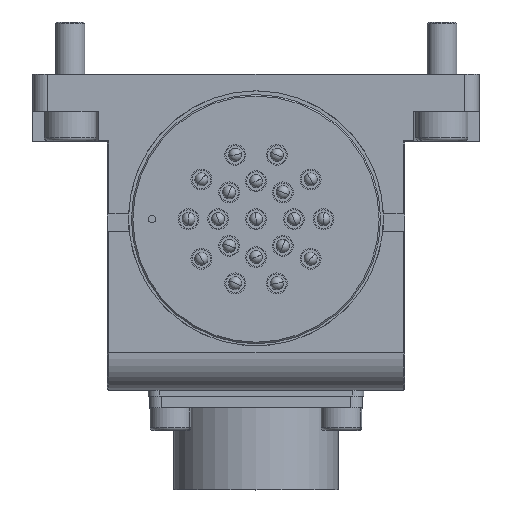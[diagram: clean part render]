
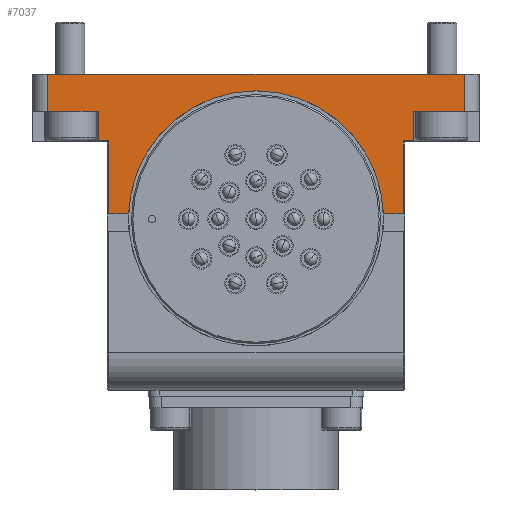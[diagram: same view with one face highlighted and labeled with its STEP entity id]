
A CAD part, top view. The second image highlights one B-rep face of the part: STEP entity #7037.
In plain terms, the highlighted planar face has unit normal (0, 0, 1).
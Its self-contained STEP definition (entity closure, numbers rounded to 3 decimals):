
#173 = CARTESIAN_POINT ( 'NONE',  ( -19.8, 0.6, 0. ) ) ;
#463 = VECTOR ( 'NONE', #9921, 1000. ) ;
#624 = VERTEX_POINT ( 'NONE', #23618 ) ;
#1166 = LINE ( 'NONE', #14999, #2498 ) ;
#1174 = EDGE_CURVE ( 'NONE', #2345, #27896, #7129, .T. ) ;
#1349 = DIRECTION ( 'NONE',  ( 0., 0., 1. ) ) ;
#1734 = DIRECTION ( 'NONE',  ( 1., 0., 0. ) ) ;
#1866 = VECTOR ( 'NONE', #3817, 1000. ) ;
#1929 = LINE ( 'NONE', #6567, #26000 ) ;
#2345 = VERTEX_POINT ( 'NONE', #8060 ) ;
#2350 = AXIS2_PLACEMENT_3D ( 'NONE', #6851, #23099, #13324 ) ;
#2498 = VECTOR ( 'NONE', #26737, 1000. ) ;
#3484 = ORIENTED_EDGE ( 'NONE', *, *, #17448, .F. ) ;
#3640 = CARTESIAN_POINT ( 'NONE',  ( -20., 0.6, 0. ) ) ;
#3817 = DIRECTION ( 'NONE',  ( 1., 0., 0. ) ) ;
#4053 = DIRECTION ( 'NONE',  ( 0., -1., 0. ) ) ;
#4804 = VECTOR ( 'NONE', #14940, 1000. ) ;
#5242 = CARTESIAN_POINT ( 'NONE',  ( 19.8, 10.4, 0. ) ) ;
#5782 = VERTEX_POINT ( 'NONE', #17408 ) ;
#5788 = EDGE_CURVE ( 'NONE', #9369, #24487, #1166, .T. ) ;
#6167 = LINE ( 'NONE', #10676, #21741 ) ;
#6191 = VECTOR ( 'NONE', #22689, 1000. ) ;
#6355 = ORIENTED_EDGE ( 'NONE', *, *, #15834, .F. ) ;
#6567 = CARTESIAN_POINT ( 'NONE',  ( -20., 0.6, 0. ) ) ;
#6568 = LINE ( 'NONE', #24500, #6191 ) ;
#6652 = EDGE_CURVE ( 'NONE', #10660, #23195, #23814, .T. ) ;
#6743 = VECTOR ( 'NONE', #17245, 1000. ) ;
#6851 = CARTESIAN_POINT ( 'NONE',  ( 0., 0., 0. ) ) ;
#7037 = ADVANCED_FACE ( 'NONE', ( #12774 ), #21509, .T. ) ;
#7129 = CIRCLE ( 'NONE', #2350, 17.15 ) ;
#7174 = ORIENTED_EDGE ( 'NONE', *, *, #17125, .F. ) ;
#7216 = ORIENTED_EDGE ( 'NONE', *, *, #6652, .T. ) ;
#7498 = LINE ( 'NONE', #16994, #21624 ) ;
#7867 = CARTESIAN_POINT ( 'NONE',  ( -19.8, -1.85, 0. ) ) ;
#8060 = CARTESIAN_POINT ( 'NONE',  ( 17.14, 0.6, 0. ) ) ;
#8947 = EDGE_CURVE ( 'NONE', #624, #23195, #14894, .T. ) ;
#9336 = ORIENTED_EDGE ( 'NONE', *, *, #1174, .F. ) ;
#9369 = VERTEX_POINT ( 'NONE', #25565 ) ;
#9914 = ORIENTED_EDGE ( 'NONE', *, *, #8947, .F. ) ;
#9921 = DIRECTION ( 'NONE',  ( -1., 0., 0. ) ) ;
#10113 = LINE ( 'NONE', #7867, #4804 ) ;
#10121 = CARTESIAN_POINT ( 'NONE',  ( -28., 14.4, 0. ) ) ;
#10211 = DIRECTION ( 'NONE',  ( 1., 0., 0. ) ) ;
#10660 = VERTEX_POINT ( 'NONE', #14572 ) ;
#10676 = CARTESIAN_POINT ( 'NONE',  ( 28., 19.4, 0. ) ) ;
#10714 = CARTESIAN_POINT ( 'NONE',  ( -19.8, 10.4, 0. ) ) ;
#10726 = LINE ( 'NONE', #19924, #19645 ) ;
#11318 = VERTEX_POINT ( 'NONE', #21265 ) ;
#12066 = ORIENTED_EDGE ( 'NONE', *, *, #23412, .F. ) ;
#12774 = FACE_OUTER_BOUND ( 'NONE', #20661, .T. ) ;
#12807 = DIRECTION ( 'NONE',  ( 0., -1., 0. ) ) ;
#13182 = LINE ( 'NONE', #28993, #6743 ) ;
#13324 = DIRECTION ( 'NONE',  ( 1., 0., 0. ) ) ;
#13460 = CARTESIAN_POINT ( 'NONE',  ( -17.14, 0.6, 0. ) ) ;
#14572 = CARTESIAN_POINT ( 'NONE',  ( -28., 19.4, 0. ) ) ;
#14894 = LINE ( 'NONE', #23480, #463 ) ;
#14940 = DIRECTION ( 'NONE',  ( 0., -1., 0. ) ) ;
#14999 = CARTESIAN_POINT ( 'NONE',  ( 19.8, 10.4, 0. ) ) ;
#15215 = DIRECTION ( 'NONE',  ( 0., 1., 0. ) ) ;
#15399 = CARTESIAN_POINT ( 'NONE',  ( 21.225, 14.4, 0. ) ) ;
#15834 = EDGE_CURVE ( 'NONE', #10660, #21003, #6568, .T. ) ;
#15945 = VECTOR ( 'NONE', #12807, 1000. ) ;
#16581 = EDGE_CURVE ( 'NONE', #16655, #17269, #10113, .T. ) ;
#16635 = EDGE_CURVE ( 'NONE', #5782, #28728, #17650, .T. ) ;
#16655 = VERTEX_POINT ( 'NONE', #10714 ) ;
#16689 = DIRECTION ( 'NONE',  ( 0., -1., 0. ) ) ;
#16994 = CARTESIAN_POINT ( 'NONE',  ( 21.225, 26.534, 0. ) ) ;
#17125 = EDGE_CURVE ( 'NONE', #9369, #2345, #19720, .T. ) ;
#17245 = DIRECTION ( 'NONE',  ( 1., 0., 0. ) ) ;
#17269 = VERTEX_POINT ( 'NONE', #173 ) ;
#17401 = ORIENTED_EDGE ( 'NONE', *, *, #5788, .T. ) ;
#17408 = CARTESIAN_POINT ( 'NONE',  ( 21.225, 14.4, 0. ) ) ;
#17448 = EDGE_CURVE ( 'NONE', #5782, #11318, #7498, .T. ) ;
#17481 = DIRECTION ( 'NONE',  ( -1., 0., 0. ) ) ;
#17650 = LINE ( 'NONE', #15399, #1866 ) ;
#18318 = ORIENTED_EDGE ( 'NONE', *, *, #22893, .T. ) ;
#18667 = ORIENTED_EDGE ( 'NONE', *, *, #16635, .T. ) ;
#18794 = EDGE_CURVE ( 'NONE', #624, #19777, #24672, .T. ) ;
#19581 = CARTESIAN_POINT ( 'NONE',  ( -28., -1.85, 0. ) ) ;
#19645 = VECTOR ( 'NONE', #1734, 1000. ) ;
#19720 = LINE ( 'NONE', #3640, #28792 ) ;
#19777 = VERTEX_POINT ( 'NONE', #22868 ) ;
#19924 = CARTESIAN_POINT ( 'NONE',  ( -30., 10.4, 0. ) ) ;
#20321 = CARTESIAN_POINT ( 'NONE',  ( 28., 19.4, 0. ) ) ;
#20661 = EDGE_LOOP ( 'NONE', ( #23075, #21370, #12066, #9336, #7174, #17401, #18318, #3484, #18667, #27231, #6355, #7216, #9914, #27879 ) ) ;
#20848 = EDGE_CURVE ( 'NONE', #28728, #21003, #6167, .T. ) ;
#21003 = VERTEX_POINT ( 'NONE', #20321 ) ;
#21265 = CARTESIAN_POINT ( 'NONE',  ( 21.225, 10.4, 0. ) ) ;
#21370 = ORIENTED_EDGE ( 'NONE', *, *, #16581, .T. ) ;
#21509 = PLANE ( 'NONE',  #25103 ) ;
#21624 = VECTOR ( 'NONE', #16689, 1000. ) ;
#21741 = VECTOR ( 'NONE', #15215, 1000. ) ;
#21821 = CARTESIAN_POINT ( 'NONE',  ( 0., -1.85, 0. ) ) ;
#22674 = VECTOR ( 'NONE', #4053, 1000. ) ;
#22689 = DIRECTION ( 'NONE',  ( 1., 0., 0. ) ) ;
#22868 = CARTESIAN_POINT ( 'NONE',  ( -21.225, 10.4, 0. ) ) ;
#22893 = EDGE_CURVE ( 'NONE', #24487, #11318, #13182, .T. ) ;
#22981 = CARTESIAN_POINT ( 'NONE',  ( 28., 14.4, 0. ) ) ;
#23075 = ORIENTED_EDGE ( 'NONE', *, *, #29433, .T. ) ;
#23099 = DIRECTION ( 'NONE',  ( 0., 0., 1. ) ) ;
#23195 = VERTEX_POINT ( 'NONE', #10121 ) ;
#23412 = EDGE_CURVE ( 'NONE', #27896, #17269, #1929, .T. ) ;
#23480 = CARTESIAN_POINT ( 'NONE',  ( -21.225, 14.4, 0. ) ) ;
#23618 = CARTESIAN_POINT ( 'NONE',  ( -21.225, 14.4, 0. ) ) ;
#23814 = LINE ( 'NONE', #19581, #15945 ) ;
#24487 = VERTEX_POINT ( 'NONE', #5242 ) ;
#24500 = CARTESIAN_POINT ( 'NONE',  ( -30., 19.4, 0. ) ) ;
#24672 = LINE ( 'NONE', #28720, #22674 ) ;
#24801 = DIRECTION ( 'NONE',  ( -1., 0., 0. ) ) ;
#25103 = AXIS2_PLACEMENT_3D ( 'NONE', #21821, #1349, #10211 ) ;
#25565 = CARTESIAN_POINT ( 'NONE',  ( 19.8, 0.6, 0. ) ) ;
#26000 = VECTOR ( 'NONE', #24801, 1000. ) ;
#26737 = DIRECTION ( 'NONE',  ( 0., 1., 0. ) ) ;
#27231 = ORIENTED_EDGE ( 'NONE', *, *, #20848, .T. ) ;
#27879 = ORIENTED_EDGE ( 'NONE', *, *, #18794, .T. ) ;
#27896 = VERTEX_POINT ( 'NONE', #13460 ) ;
#28720 = CARTESIAN_POINT ( 'NONE',  ( -21.225, 26.534, 0. ) ) ;
#28728 = VERTEX_POINT ( 'NONE', #22981 ) ;
#28792 = VECTOR ( 'NONE', #17481, 1000. ) ;
#28993 = CARTESIAN_POINT ( 'NONE',  ( 20., 10.4, 0. ) ) ;
#29433 = EDGE_CURVE ( 'NONE', #19777, #16655, #10726, .T. ) ;
